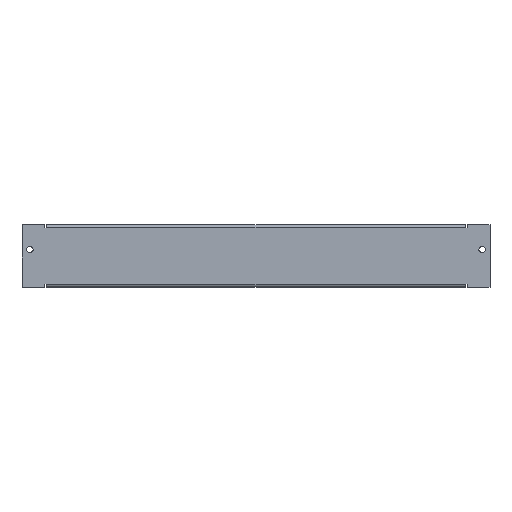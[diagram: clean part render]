
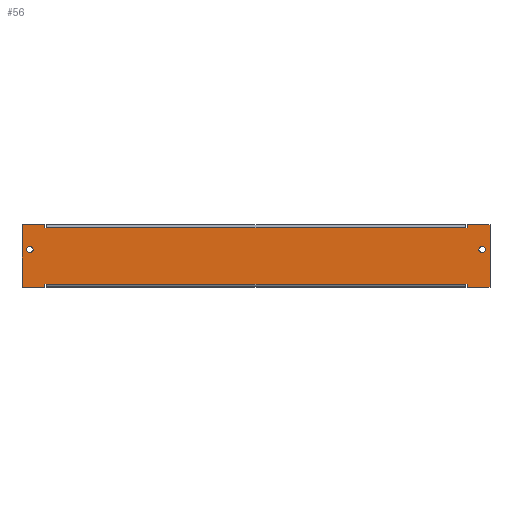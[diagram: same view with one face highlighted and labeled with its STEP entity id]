
A CAD part, top view. The second image highlights one B-rep face of the part: STEP entity #56.
In plain terms, the highlighted planar face has unit normal (0, 0, 1).
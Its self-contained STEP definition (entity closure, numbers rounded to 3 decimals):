
#56=ADVANCED_FACE('',(#118,#120,#122),#124,.F.);
#118=FACE_BOUND('',#119,.T.);
#119=EDGE_LOOP('',(#375,#376,#377,#378,#379,#380,#381,#382,#383,#384,#385,#386,#387,
#388,#389,#390));
#120=FACE_BOUND('',#121,.T.);
#121=EDGE_LOOP('',(#391));
#122=FACE_BOUND('',#123,.T.);
#123=EDGE_LOOP('',(#392));
#124=PLANE('',#125);
#125=AXIS2_PLACEMENT_3D('',#126,#127,#128);
#126=CARTESIAN_POINT('',(0.,0.,0.));
#127=DIRECTION('',(0.,0.,-1.));
#128=DIRECTION('',(-1.,0.,0.));
#375=ORIENTED_EDGE('',*,*,#541,.F.);
#376=ORIENTED_EDGE('',*,*,#542,.T.);
#377=ORIENTED_EDGE('',*,*,#543,.F.);
#378=ORIENTED_EDGE('',*,*,#544,.F.);
#379=ORIENTED_EDGE('',*,*,#545,.T.);
#380=ORIENTED_EDGE('',*,*,#546,.T.);
#381=ORIENTED_EDGE('',*,*,#547,.T.);
#382=ORIENTED_EDGE('',*,*,#548,.F.);
#383=ORIENTED_EDGE('',*,*,#549,.F.);
#384=ORIENTED_EDGE('',*,*,#550,.T.);
#385=ORIENTED_EDGE('',*,*,#551,.F.);
#386=ORIENTED_EDGE('',*,*,#552,.F.);
#387=ORIENTED_EDGE('',*,*,#553,.T.);
#388=ORIENTED_EDGE('',*,*,#554,.T.);
#389=ORIENTED_EDGE('',*,*,#555,.T.);
#390=ORIENTED_EDGE('',*,*,#556,.F.);
#391=ORIENTED_EDGE('',*,*,#521,.T.);
#392=ORIENTED_EDGE('',*,*,#523,.F.);
#521=EDGE_CURVE('',#605,#605,#606,.T.);
#523=EDGE_CURVE('',#609,#609,#610,.T.);
#541=EDGE_CURVE('',#645,#646,#647,.T.);
#542=EDGE_CURVE('',#645,#648,#649,.T.);
#543=EDGE_CURVE('',#650,#648,#651,.T.);
#544=EDGE_CURVE('',#652,#650,#653,.T.);
#545=EDGE_CURVE('',#652,#654,#655,.T.);
#546=EDGE_CURVE('',#654,#656,#657,.T.);
#547=EDGE_CURVE('',#656,#658,#659,.T.);
#548=EDGE_CURVE('',#660,#658,#661,.T.);
#549=EDGE_CURVE('',#662,#660,#663,.T.);
#550=EDGE_CURVE('',#662,#664,#665,.T.);
#551=EDGE_CURVE('',#666,#664,#667,.T.);
#552=EDGE_CURVE('',#668,#666,#669,.T.);
#553=EDGE_CURVE('',#668,#670,#671,.T.);
#554=EDGE_CURVE('',#670,#672,#673,.T.);
#555=EDGE_CURVE('',#672,#674,#675,.T.);
#556=EDGE_CURVE('',#646,#674,#676,.T.);
#605=VERTEX_POINT('',#741);
#606=CIRCLE('',#742,3.15);
#609=VERTEX_POINT('',#751);
#610=CIRCLE('',#752,3.15);
#645=VERTEX_POINT('',#825);
#646=VERTEX_POINT('',#826);
#647=LINE('',#827,#828);
#648=VERTEX_POINT('',#830);
#649=LINE('',#831,#832);
#650=VERTEX_POINT('',#834);
#651=LINE('',#835,#836);
#652=VERTEX_POINT('',#838);
#653=LINE('',#839,#840);
#654=VERTEX_POINT('',#842);
#655=LINE('',#843,#844);
#656=VERTEX_POINT('',#846);
#657=LINE('',#847,#848);
#658=VERTEX_POINT('',#850);
#659=LINE('',#851,#852);
#660=VERTEX_POINT('',#854);
#661=LINE('',#855,#856);
#662=VERTEX_POINT('',#858);
#663=LINE('',#859,#860);
#664=VERTEX_POINT('',#862);
#665=LINE('',#863,#864);
#666=VERTEX_POINT('',#866);
#667=LINE('',#867,#868);
#668=VERTEX_POINT('',#870);
#669=LINE('',#871,#872);
#670=VERTEX_POINT('',#874);
#671=LINE('',#875,#876);
#672=VERTEX_POINT('',#878);
#673=LINE('',#879,#880);
#674=VERTEX_POINT('',#882);
#675=LINE('',#883,#884);
#676=LINE('',#886,#887);
#741=CARTESIAN_POINT('',(231.15,6.5,0.));
#742=AXIS2_PLACEMENT_3D('',#743,#744,#745);
#743=CARTESIAN_POINT('',(228.,6.5,0.));
#744=DIRECTION('',(0.,0.,-1.));
#745=DIRECTION('',(1.,0.,0.));
#751=CARTESIAN_POINT('',(-224.85,6.5,0.));
#752=AXIS2_PLACEMENT_3D('',#753,#754,#755);
#753=CARTESIAN_POINT('',(-228.,6.5,0.));
#754=DIRECTION('',(0.,0.,1.));
#755=DIRECTION('',(-1.,0.,0.));
#825=CARTESIAN_POINT('',(211.,28.3,0.));
#826=CARTESIAN_POINT('',(213.,28.3,0.));
#827=CARTESIAN_POINT('',(211.,28.3,0.));
#828=VECTOR('',#829,1.);
#829=DIRECTION('',(1.,0.,0.));
#830=CARTESIAN_POINT('',(-211.,28.3,0.));
#831=CARTESIAN_POINT('',(211.,28.3,0.));
#832=VECTOR('',#833,1.);
#833=DIRECTION('',(-1.,0.,0.));
#834=CARTESIAN_POINT('',(-213.,28.3,0.));
#835=CARTESIAN_POINT('',(-213.,28.3,0.));
#836=VECTOR('',#837,1.);
#837=DIRECTION('',(1.,0.,0.));
#838=CARTESIAN_POINT('',(-213.,31.5,0.));
#839=CARTESIAN_POINT('',(-213.,31.5,0.));
#840=VECTOR('',#841,1.);
#841=DIRECTION('',(0.,-1.,0.));
#842=CARTESIAN_POINT('',(-236.,31.5,0.));
#843=CARTESIAN_POINT('',(-213.,31.5,0.));
#844=VECTOR('',#845,1.);
#845=DIRECTION('',(-1.,0.,0.));
#846=CARTESIAN_POINT('',(-236.,-31.5,0.));
#847=CARTESIAN_POINT('',(-236.,31.5,0.));
#848=VECTOR('',#849,1.);
#849=DIRECTION('',(0.,-1.,0.));
#850=CARTESIAN_POINT('',(-213.,-31.5,0.));
#851=CARTESIAN_POINT('',(-236.,-31.5,0.));
#852=VECTOR('',#853,1.);
#853=DIRECTION('',(1.,0.,0.));
#854=CARTESIAN_POINT('',(-213.,-28.3,0.));
#855=CARTESIAN_POINT('',(-213.,-28.3,0.));
#856=VECTOR('',#857,1.);
#857=DIRECTION('',(0.,-1.,0.));
#858=CARTESIAN_POINT('',(-211.,-28.3,0.));
#859=CARTESIAN_POINT('',(-211.,-28.3,0.));
#860=VECTOR('',#861,1.);
#861=DIRECTION('',(-1.,0.,0.));
#862=CARTESIAN_POINT('',(211.,-28.3,0.));
#863=CARTESIAN_POINT('',(-211.,-28.3,0.));
#864=VECTOR('',#865,1.);
#865=DIRECTION('',(1.,0.,0.));
#866=CARTESIAN_POINT('',(213.,-28.3,0.));
#867=CARTESIAN_POINT('',(213.,-28.3,0.));
#868=VECTOR('',#869,1.);
#869=DIRECTION('',(-1.,0.,0.));
#870=CARTESIAN_POINT('',(213.,-31.5,0.));
#871=CARTESIAN_POINT('',(213.,-31.5,0.));
#872=VECTOR('',#873,1.);
#873=DIRECTION('',(0.,1.,0.));
#874=CARTESIAN_POINT('',(236.,-31.5,0.));
#875=CARTESIAN_POINT('',(213.,-31.5,0.));
#876=VECTOR('',#877,1.);
#877=DIRECTION('',(1.,0.,0.));
#878=CARTESIAN_POINT('',(236.,31.5,0.));
#879=CARTESIAN_POINT('',(236.,-31.5,0.));
#880=VECTOR('',#881,1.);
#881=DIRECTION('',(0.,1.,0.));
#882=CARTESIAN_POINT('',(213.,31.5,0.));
#883=CARTESIAN_POINT('',(236.,31.5,0.));
#884=VECTOR('',#885,1.);
#885=DIRECTION('',(-1.,0.,0.));
#886=CARTESIAN_POINT('',(213.,28.3,0.));
#887=VECTOR('',#888,1.);
#888=DIRECTION('',(0.,1.,0.));
